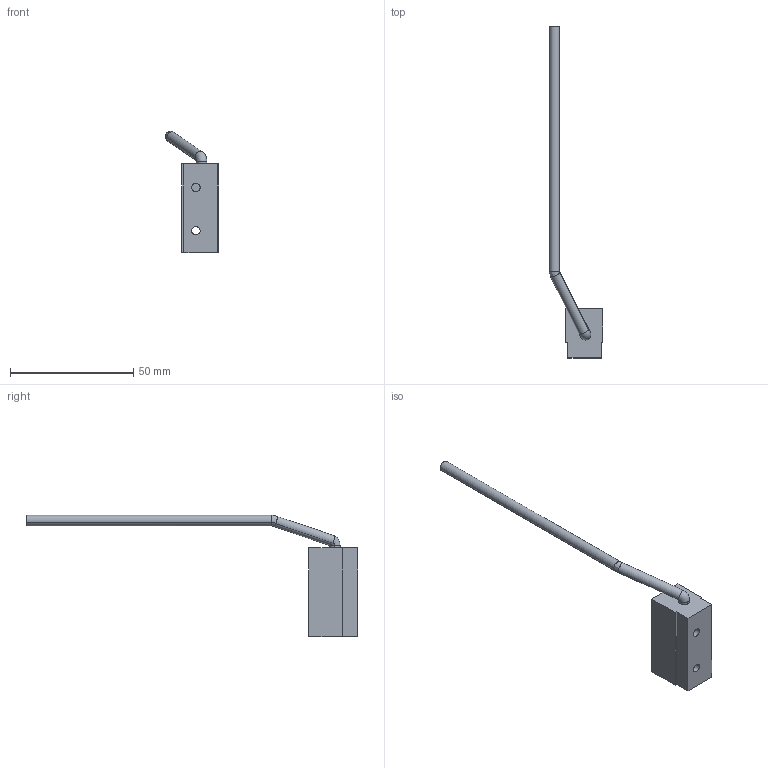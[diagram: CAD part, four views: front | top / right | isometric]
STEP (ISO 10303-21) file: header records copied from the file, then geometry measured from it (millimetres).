
FILE_DESCRIPTION((''),'2;1');
FILE_NAME('ZP200T01-ENCODER','2002-07-22T',('FKrakosh'),(''),'PRO/ENGINEER BY PARAMETRIC TECHNOLOGY CORPORATION, 2000420','PRO/ENGINEER BY PARAMETRIC TECHNOLOGY CORPORATION, 2000420','');
FILE_SCHEMA(('CONFIG_CONTROL_DESIGN'));
Length unit declared in the file: inch
Products named in the file (1): ZP200T01-ENCODER
Bounding box: 21.69 x 134.35 x 49.15 mm (x, y, z)
Volume: 12078.4 mm3; surface area: 5122.7 mm2
Topology: 1 solids, 1 shells, 26 faces, 64 edges, 38 vertices
Faces by surface type: plane 12, cylinder 10, torus 2, bspline 2
Entity records: 825 total; most frequent: CARTESIAN_POINT 177, DIRECTION 130, ORIENTED_EDGE 120, EDGE_CURVE 60, AXIS2_PLACEMENT_3D 48, VERTEX_POINT 38, VECTOR 34, LINE 34
